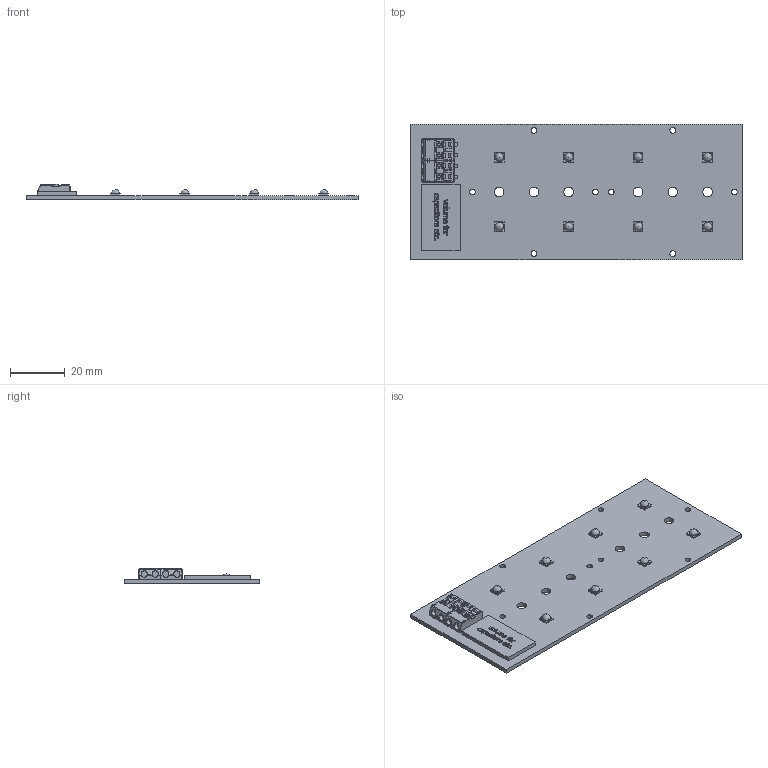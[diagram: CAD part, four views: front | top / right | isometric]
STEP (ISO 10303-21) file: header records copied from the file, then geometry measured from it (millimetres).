
FILE_DESCRIPTION(/* description */ (''),/* implementation_level */ '2;1');
FILE_NAME(/* name */ 'C:\FastFlex 2x4 DA Gen4.stp',/* time_stamp */ '2019-01-17T12:26:48+01:00',/* author */ ('nlv21627'),/* organization */ (''),/* preprocessor_version */ 'ST-DEVELOPER v16.5',/* originating_system */ 'Autodesk Inventor 2017',/* authorisation */ '');
FILE_SCHEMA (('AUTOMOTIVE_DESIGN { 1 0 10303 214 3 1 1 }'));
Length unit declared in the file: millimetre
Products named in the file (1): 4422-409-57720_simplified
Bounding box: 121.4 x 49.5 x 5.85 mm (x, y, z)
Volume: 10773.3 mm3; surface area: 13552.4 mm2
Topology: 1 solids, 33 shells, 1356 faces, 3669 edges, 2390 vertices
Faces by surface type: plane 799, cylinder 258, bspline 199, torus 48, cone 44, sphere 8
Full cylindrical faces by diameter (mm): 0.1 x32, 2.1 x8, 3.5 x6
Entity records: 45475 total; most frequent: CARTESIAN_POINT 12069, ORIENTED_EDGE 7010, DIRECTION 6052, EDGE_CURVE 3505, LINE 2494, VECTOR 2494, VERTEX_POINT 2320, AXIS2_PLACEMENT_3D 1779
